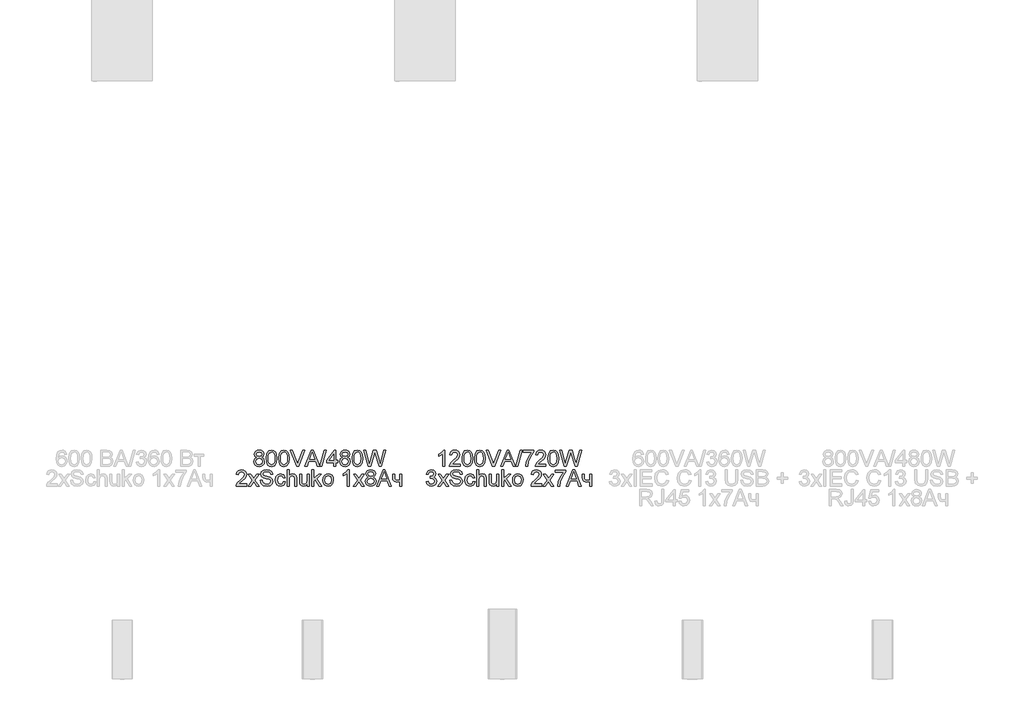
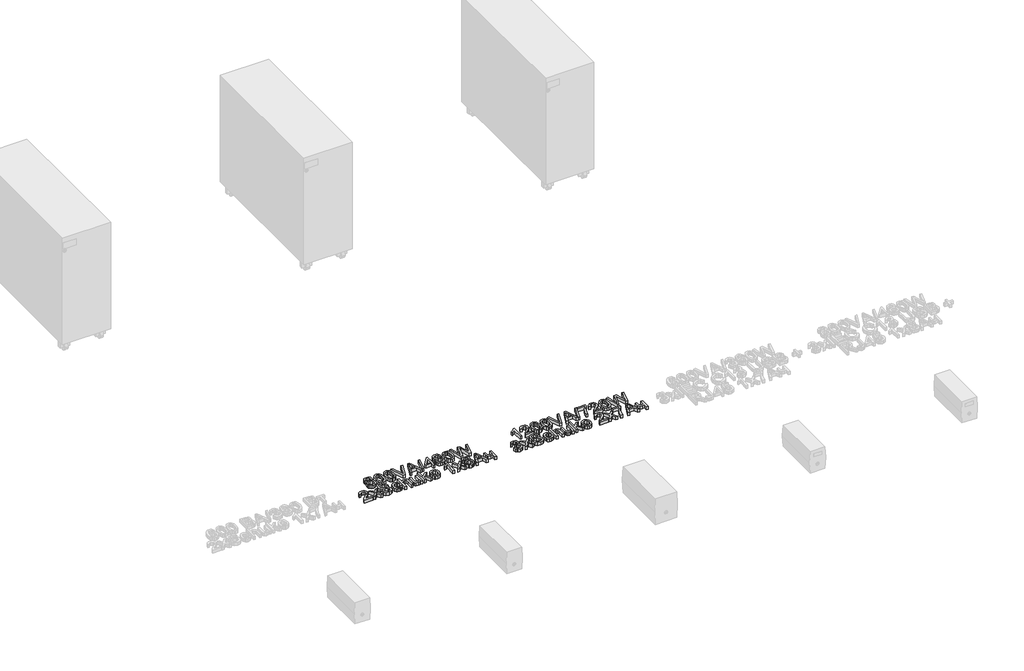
# One storey, part 38 of 74: 2 proxies.
"""IFC4 building model written with IfcOpenShell, lengths in millimetres."""

import ifcopenshell
import ifcopenshell.guid

model = None  # the IFC model being written
_history = None  # IfcOwnerHistory: only IFC2X3 demands one
_inside = {}  # id of a spatial element -> (the spatial element, [elements in it])
_under = {}  # id of a project, library or spatial element -> (it, [spatial elements below it])
_declared = {}  # id of a project -> (the project, [libraries it declares])
_typed = {}  # id of a type object -> (the type object, [elements of that type])
_made_of = {}  # id of a material, layer set ... -> (it, [elements and type objects made of it])


def new_model(schema):
    """Start an empty IFC model of exactly this schema.

    Asked for "IFC4X3", IfcOpenShell would pick the latest addendum, in which some entities
    have other attributes; the version numbers below select the first issue.
    IFC2X3 requires an IfcOwnerHistory on every rooted entity: one is made here for all.
    """
    global model, _history
    if schema == "IFC4X3":
        model = ifcopenshell.file(schema_version=(4, 3, 0, 0))
    else:
        model = ifcopenshell.file(schema=schema)
    _inside.clear()
    _under.clear()
    _declared.clear()
    _typed.clear()
    _made_of.clear()
    _history = None
    if model.schema == "IFC2X3":
        org = make("IfcOrganization", Name="unknown")
        user = make(
            "IfcPersonAndOrganization",
            ThePerson=make("IfcPerson", FamilyName="unknown"),
            TheOrganization=org,
        )
        app = make(
            "IfcApplication",
            ApplicationDeveloper=org,
            Version="unknown",
            ApplicationFullName="unknown",
            ApplicationIdentifier="unknown",
        )
        _history = make(
            "IfcOwnerHistory",
            OwningUser=user,
            OwningApplication=app,
            ChangeAction="ADDED",
            CreationDate=0,
        )
    return model


def make(cls, **values):
    """One entity of the class cls with the attributes given. An attribute that is None is left unset."""
    return model.create_entity(
        cls, **{name: value for name, value in values.items() if value is not None}
    )


def rooted(cls, **values):
    """An entity with a GlobalId (a new one), such as an element, a storey or a relation."""
    return make(cls, GlobalId=ifcopenshell.guid.new(), OwnerHistory=_history, **values)


def si_unit(unit_type, name, prefix=None):
    """IfcSIUnit, for example si_unit("LENGTHUNIT", "METRE", prefix="MILLI")."""
    return make("IfcSIUnit", UnitType=unit_type, Prefix=prefix, Name=name)


def assignment(units):
    """IfcUnitAssignment: the units of a project."""
    return None if units is None else make("IfcUnitAssignment", Units=units)


def point(xyz):
    """IfcCartesianPoint."""
    return None if xyz is None else make("IfcCartesianPoint", Coordinates=xyz)


def direction(xyz):
    """IfcDirection."""
    return None if xyz is None else make("IfcDirection", DirectionRatios=xyz)


def frame(location, z_axis=None, x_axis=None):
    """IfcAxis2Placement3D, a coordinate frame: its origin and axes. An axis left out is left unset."""
    return make(
        "IfcAxis2Placement3D",
        Location=point(location),
        Axis=direction(z_axis),
        RefDirection=direction(x_axis),
    )


def origin():
    """The frame at (0, 0, 0) with its axes left unset."""
    return frame((0.0, 0.0, 0.0))


def origin_with_axes():
    """The frame at (0, 0, 0) with the z axis (0, 0, 1) and the x axis (1, 0, 0) written out."""
    return frame((0.0, 0.0, 0.0), z_axis=(0.0, 0.0, 1.0), x_axis=(1.0, 0.0, 0.0))


def place(relative_to, where):
    """IfcLocalPlacement: puts the frame where relative to a parent placement (None: the world)."""
    return make(
        "IfcLocalPlacement", PlacementRelTo=relative_to, RelativePlacement=where
    )


def context(
    kind, dimensions, precision=None, world=None, true_north=None, identifier=None
):
    """IfcGeometricRepresentationContext, for example the 3D "Model" context."""
    return make(
        "IfcGeometricRepresentationContext",
        ContextIdentifier=identifier,
        ContextType=kind,
        CoordinateSpaceDimension=dimensions,
        Precision=precision,
        WorldCoordinateSystem=world,
        TrueNorth=true_north,
    )


def project(units=None, contexts=None):
    """IfcProject with its units and contexts."""
    return rooted(
        "IfcProject",
        Name="project",
        RepresentationContexts=contexts,
        UnitsInContext=assignment(units),
    )


def spatial(cls, under=None, at=None, **own):
    """A site, building, storey or space (cls), placed at a placement, below another one or the project."""
    s = rooted(cls, ObjectPlacement=at, **own)
    if under is not None:
        _under.setdefault(under.id(), (under, []))[1].append(s)
    return s


def polyline(points):
    """IfcPolyline through the points."""
    return make("IfcPolyline", Points=[point(p) for p in points])


def outline(outer, holes=None, kind="AREA"):
    """IfcArbitraryClosedProfileDef: a profile drawn as a closed curve; with holes, ...WithVoids."""
    if holes is None:
        return make("IfcArbitraryClosedProfileDef", ProfileType=kind, OuterCurve=outer)
    return make(
        "IfcArbitraryProfileDefWithVoids",
        ProfileType=kind,
        OuterCurve=outer,
        InnerCurves=holes,
    )


def extrude(swept, where, along, depth):
    """IfcExtrudedAreaSolid: the profile swept, set in the frame where, extruded along a direction by depth."""
    return make(
        "IfcExtrudedAreaSolid",
        SweptArea=swept,
        Position=where,
        ExtrudedDirection=direction(along),
        Depth=depth,
    )


def shape(context_of_items, identifier, shape_type, items):
    """IfcShapeRepresentation: the items that make up one representation, for example the "Body"."""
    return make(
        "IfcShapeRepresentation",
        ContextOfItems=context_of_items,
        RepresentationIdentifier=identifier,
        RepresentationType=shape_type,
        Items=items,
    )


def made_of(thing, what):
    """Note that an element or type object is made of a material, layer set ...; save() writes the relation."""
    if what is not None:
        _made_of.setdefault(what.id(), (what, []))[1].append(thing)
    return thing


def element(
    cls,
    number,
    at=None,
    inside=None,
    cuts=None,
    type_object=None,
    material=None,
    context=None,
    identifier="Body",
    shape_type=None,
    held_by="IfcProductDefinitionShape",
    body=None,
    shapes=None,
    **own,
):
    """One element of the class cls, such as IfcWall. Its Tag is "e" and its number.

    at: its placement. inside: the storey or other place that contains it. cuts: it is an
    opening in that element (IfcRelVoidsElement). A single representation is given by context,
    identifier, shape_type and body (its items); several are given by shapes. held_by: the class
    of the entity that holds the representations. save() writes the other relations.
    """
    e = rooted(cls, Tag="e%d" % number, ObjectPlacement=at, **own)
    if body is not None:
        shapes = [shape(context, identifier, shape_type, body)]
    if shapes is not None:
        e.Representation = make(held_by, Representations=shapes)
    if inside is not None:
        _inside.setdefault(inside.id(), (inside, []))[1].append(e)
    if cuts is not None:
        rooted(
            "IfcRelVoidsElement", RelatingBuildingElement=cuts, RelatedOpeningElement=e
        )
    if type_object is not None:
        _typed.setdefault(type_object.id(), (type_object, []))[1].append(e)
    return made_of(e, material)


def aggregate(whole, parts):
    """IfcRelAggregates: a whole, such as a stair, and the parts it consists of."""
    return rooted("IfcRelAggregates", RelatingObject=whole, RelatedObjects=parts)


def save(model, path):
    """Write the relations noted so far, then the file.

    IfcRelAggregates (storeys below a building ...), IfcRelContainedInSpatialStructure (elements
    in a storey), IfcRelDefinesByType, IfcRelAssociatesMaterial and IfcRelDeclares: one each for
    every whole, place, type object, material and project.
    """
    for whole, parts in _under.values():
        aggregate(whole, parts)
    for where, things in _inside.values():
        rooted(
            "IfcRelContainedInSpatialStructure",
            RelatedElements=things,
            RelatingStructure=where,
        )
    for kind, things in _typed.values():
        rooted("IfcRelDefinesByType", RelatedObjects=things, RelatingType=kind)
    for what, things in _made_of.values():
        rooted("IfcRelAssociatesMaterial", RelatedObjects=things, RelatingMaterial=what)
    for by, libraries in _declared.values():
        rooted("IfcRelDeclares", RelatingContext=by, RelatedDefinitions=libraries)
    model.write(path)


model = new_model("IFC4")

# Units and contexts
model_context = context("Model", 3, world=origin())
ifc_project = project(units=[si_unit("LENGTHUNIT", "METRE", prefix="MILLI")], contexts=[model_context])

# Site, building, storey
site = spatial("IfcSite", under=ifc_project)
building = spatial("IfcBuilding", under=site)
storey = spatial("IfcBuildingStorey", under=building, Name="Этаж 01", Elevation=0.0)

# Proxies
placement = place(None, origin())
element("IfcBuildingElementProxy", 1, Name="80 мм Arial", ObjectType="80 мм Arial", at=placement, inside=storey, context=model_context, shape_type="SweptSolid", body=[
    extrude(outline(polyline([(2019.4918629, -10982.3697643), (2010.3389588, -10976.1304857), (2007.3664723, -10966.418401), (2008.9851531, -10958.5653467), (2013.8411954, -10952.0759083), (2021.390134, -10947.7201854), (2031.0875034, -10946.2682778), (2040.8437339, -10947.7545211), (2048.4907743, -10952.2132509), (2053.4351083, -10958.8056962), (2055.0832196, -10966.6930862), (2052.1499739, -10976.1599162), (2043.2521347, -10982.3697643), (2053.9354278, -10990.2473441), (2057.5946274, -11003.2458413), (2055.7797429, -11012.8500139), (2050.3350894, -11020.7864548), (2041.9277595, -11026.1133861), (2031.224846, -11027.8890298), (2020.5219325, -11026.1060284), (2012.1146026, -11020.7570242), (2006.6699491, -11012.7445544), (2004.8550646, -11002.971156), (2008.6614169, -10989.6685431), (2019.4918629, -10982.3697643)]), holes=[polyline([(2017.4121033, -10966.7127066), (2020.973201, -10974.6000966), (2031.3425682, -10977.6608748), (2041.5059215, -10974.6197169), (2045.0375886, -10967.1639752), (2041.3881992, -10959.4433584), (2031.224846, -10956.3139089), (2021.0320622, -10959.3746871), (2017.4121033, -10966.7127066)]), polyline([(2014.9006956, -11002.6179893), (2016.5782375, -11010.1816431), (2022.5134003, -11015.8421208), (2031.3033275, -11017.8433988), (2043.271755, -11013.6348288), (2047.5489964, -11002.9319153), (2043.1344124, -10992.0229879), (2030.9697811, -10987.7065058), (2019.1485063, -10991.9641267), (2014.9006956, -11002.6179893)])]), origin_with_axes(), (0.0, 0.0, 1.0), 20.0),
    extrude(outline(polyline([(2066.3845545, -10987.0982742), (2069.3374207, -10963.9756645), (2078.1077274, -10950.643621), (2092.7543359, -10946.2682778), (2104.487319, -10948.8581671), (2112.5905331, -10956.323719), (2117.2994227, -10968.2136651), (2119.1241174, -10987.0982742), (2116.2006818, -11010.122782), (2107.4598056, -11023.4842561), (2092.7543359, -11027.8890298), (2082.3162975, -11025.9760435), (2074.3896667, -11020.2370843), (2068.3858326, -11006.6450709), (2066.3845545, -10987.0982742)]), holes=[polyline([(2076.4301855, -10987.0786538), (2077.6074079, -11002.8804118), (2081.1390751, -11012.0259582), (2092.7543359, -11017.8433988), (2104.3695968, -11012.0063378), (2107.901264, -11002.8558863), (2109.0784863, -10987.0786538), (2107.9405047, -10971.6325151), (2104.5265598, -10962.4158449), (2099.27811, -10957.8393929), (2092.6366137, -10956.3139089), (2081.2960381, -10961.6898911), (2077.6466487, -10971.4804572), (2076.4301855, -10987.0786538)])]), origin_with_axes(), (0.0, 0.0, 1.0), 20.0),
    extrude(outline(polyline([(2127.9140445, -10987.0982742), (2130.8669106, -10963.9756645), (2139.6372174, -10950.643621), (2154.2838259, -10946.2682778), (2166.016809, -10948.8581671), (2174.1200231, -10956.323719), (2178.8289126, -10968.2136651), (2180.6536073, -10987.0982742), (2177.7301717, -11010.122782), (2168.9892955, -11023.4842561), (2154.2838259, -11027.8890298), (2143.8457874, -11025.9760435), (2135.9191567, -11020.2370843), (2129.9153225, -11006.6450709), (2127.9140445, -10987.0982742)]), holes=[polyline([(2137.9596755, -10987.0786538), (2139.1368979, -11002.8804118), (2142.668565, -11012.0259582), (2154.2838259, -11017.8433988), (2165.8990868, -11012.0063378), (2169.4307539, -11002.8558863), (2170.6079763, -10987.0786538), (2169.4699947, -10971.6325151), (2166.0560498, -10962.4158449), (2160.8076, -10957.8393929), (2154.1661037, -10956.3139089), (2142.825528, -10961.6898911), (2139.1761386, -10971.4804572), (2137.9596755, -10987.0786538)])]), origin_with_axes(), (0.0, 0.0, 1.0), 20.0),
    extrude(outline(polyline([(2257.9382569, -11026.633326), (2290.0175668, -10946.2682778), (2298.5720495, -10946.2682778), (2330.6513595, -11026.633326), (2320.0367377, -11026.633326), (2310.8347827, -11001.5192484), (2277.7352133, -11001.5192484), (2268.5528787, -11026.633326), (2257.9382569, -11026.633326)]), holes=[polyline([(2281.4238434, -10991.4736174), (2307.1657729, -10991.4736174), (2299.9258553, -10971.7159017), (2294.2948082, -10956.3139089), (2289.291613, -10969.9893089), (2281.4238434, -10991.4736174)])]), origin_with_axes(), (0.0, 0.0, 1.0), 20.0),
    extrude(outline(polyline([(2216.9512975, -11026.633326), (2184.9700894, -10946.2682778), (2195.7220538, -10946.2682778), (2217.1278809, -11004.1679988), (2221.4639833, -11017.2155469), (2225.7412247, -11004.1679988), (2247.2059128, -10946.2682778), (2257.9578772, -10946.2682778), (2227.3304749, -11026.633326), (2216.9512975, -11026.633326)])), origin_with_axes(), (0.0, 0.0, 1.0), 20.0),
    extrude(outline(polyline([(2332.5937764, -11026.633326), (2355.1964462, -10946.2682778), (2364.2610586, -10946.2682778), (2341.6583888, -11026.633326), (2332.5937764, -11026.633326)])), origin_with_axes(), (0.0, 0.0, 1.0), 20.0),
    extrude(outline(polyline([(2401.6574897, -11026.633326), (2401.6574897, -11007.7977678), (2365.2420772, -11007.7977678), (2365.2420772, -10997.7521368), (2404.1688974, -10947.5239817), (2411.7031207, -10947.5239817), (2411.7031207, -10997.7521368), (2421.7487517, -10997.7521368), (2421.7487517, -11007.7977678), (2411.7031207, -11007.7977678), (2411.7031207, -11026.633326), (2401.6574897, -11026.633326)]), holes=[polyline([(2401.6574897, -10997.7521368), (2401.6574897, -10966.7127066), (2377.6029123, -10997.7521368), (2401.6574897, -10997.7521368)])]), origin_with_axes(), (0.0, 0.0, 1.0), 20.0),
    extrude(outline(polyline([(2445.1754771, -10982.3697643), (2436.0225731, -10976.1304857), (2433.0500866, -10966.418401), (2434.6687674, -10958.5653467), (2439.5248097, -10952.0759083), (2447.0737482, -10947.7201854), (2456.7711176, -10946.2682778), (2466.5273481, -10947.7545211), (2474.1743885, -10952.2132509), (2479.1187226, -10958.8056962), (2480.7668339, -10966.6930862), (2477.8335881, -10976.1599162), (2468.9357489, -10982.3697643), (2479.6190421, -10990.2473441), (2483.2782416, -11003.2458413), (2481.4633571, -11012.8500139), (2476.0187036, -11020.7864548), (2467.6113737, -11026.1133861), (2456.9084602, -11027.8890298), (2446.2055467, -11026.1060284), (2437.7982169, -11020.7570242), (2432.3535633, -11012.7445544), (2430.5386788, -11002.971156), (2434.3450312, -10989.6685431), (2445.1754771, -10982.3697643)]), holes=[polyline([(2443.0957176, -10966.7127066), (2446.6568153, -10974.6000966), (2457.0261825, -10977.6608748), (2467.1895357, -10974.6197169), (2470.7212029, -10967.1639752), (2467.0718135, -10959.4433584), (2456.9084602, -10956.3139089), (2446.7156764, -10959.3746871), (2443.0957176, -10966.7127066)]), polyline([(2440.5843098, -11002.6179893), (2442.2618517, -11010.1816431), (2448.1970146, -11015.8421208), (2456.9869417, -11017.8433988), (2468.9553693, -11013.6348288), (2473.2326106, -11002.9319153), (2468.8180267, -10992.0229879), (2456.6533954, -10987.7065058), (2444.8321206, -10991.9641267), (2440.5843098, -11002.6179893)])]), origin_with_axes(), (0.0, 0.0, 1.0), 20.0),
    extrude(outline(polyline([(2492.0681688, -10987.0982742), (2495.0210349, -10963.9756645), (2503.7913417, -10950.643621), (2518.4379502, -10946.2682778), (2530.1709333, -10948.8581671), (2538.2741474, -10956.323719), (2542.9830369, -10968.2136651), (2544.8077316, -10987.0982742), (2541.884296, -11010.122782), (2533.1434198, -11023.4842561), (2518.4379502, -11027.8890298), (2507.9999117, -11025.9760435), (2500.073281, -11020.2370843), (2494.0694468, -11006.6450709), (2492.0681688, -10987.0982742)]), holes=[polyline([(2502.1137998, -10987.0786538), (2503.2910222, -11002.8804118), (2506.8226893, -11012.0259582), (2518.4379502, -11017.8433988), (2530.0532111, -11012.0063378), (2533.5848782, -11002.8558863), (2534.7621006, -10987.0786538), (2533.624119, -10971.6325151), (2530.210174, -10962.4158449), (2524.9617242, -10957.8393929), (2518.320228, -10956.3139089), (2506.9796523, -10961.6898911), (2503.3302629, -10971.4804572), (2502.1137998, -10987.0786538)])]), origin_with_axes(), (0.0, 0.0, 1.0), 20.0),
    extrude(outline(polyline([(2571.7465038, -11026.633326), (2549.8305471, -10946.2682778), (2560.1901041, -10946.2682778), (2572.9041059, -10999.0863222), (2576.8281805, -11015.3908522), (2581.0269403, -11000.969878), (2596.9586833, -10946.2682778), (2611.8897872, -10946.2682778), (2623.4658073, -10985.9210518), (2632.0791511, -11015.3908522), (2635.8855034, -10999.5572111), (2648.7172274, -10946.2682778), (2659.0767844, -10946.2682778), (2637.1412073, -11026.633326), (2626.4088632, -11026.633326), (2607.1416569, -10964.632947), (2604.4536658, -10955.9803625), (2601.4321283, -10966.3987806), (2583.8718944, -11026.633326), (2571.7465038, -11026.633326)])), origin_with_axes(), (0.0, 0.0, 1.0), 20.0),
    extrude(outline(polyline([(1970.3232079, -11114.1675492), (1970.3232079, -11124.2131802), (1917.5836451, -11124.2131802), (1918.6627656, -11117.2871885), (1924.7647017, -11106.6235158), (1937.3413608, -11094.9788244), (1954.6857706, -11078.2426461), (1959.0218731, -11066.8628297), (1954.9310253, -11057.6510646), (1944.2477321, -11053.8937631), (1933.1131704, -11057.5627729), (1928.88498, -11067.7065058), (1918.839349, -11066.4508019), (1921.2747278, -11056.7338121), (1926.5403454, -11049.6361422), (1934.3615166, -11045.2951346), (1944.4635562, -11043.8481321), (1954.6391722, -11045.4570027), (1962.4456282, -11050.2836145), (1967.4120351, -11057.4941016), (1969.0675041, -11066.2545982), (1967.2820501, -11075.7802893), (1961.3468873, -11085.6297166), (1946.9553436, -11099.3934083), (1935.3989439, -11109.056442), (1930.8666377, -11114.1675492), (1970.3232079, -11114.1675492)])), origin_with_axes(), (0.0, 0.0, 1.0), 20.0),
    extrude(outline(polyline([(1976.6017273, -11124.2131802), (1998.0664155, -11094.5471761), (1977.8574312, -11065.195098), (1989.943581, -11065.195098), (1999.6949064, -11079.3217666), (2004.246833, -11085.9926935), (2008.190528, -11080.5382298), (2019.2956591, -11065.195098), (2031.381809, -11065.195098), (2010.1525653, -11094.5471761), (2030.596994, -11124.2131802), (2018.5108442, -11124.2131802), (2006.2088703, -11106.3782611), (2003.9525274, -11103.1212792), (1988.6878771, -11124.2131802), (1976.6017273, -11124.2131802)])), origin_with_axes(), (0.0, 0.0, 1.0), 20.0),
    extrude(outline(polyline([(2036.8755134, -11096.5876949), (2046.9211444, -11096.5876949), (2050.158506, -11106.6431361), (2058.0655163, -11113.000137), (2070.1124254, -11115.4232531), (2080.609325, -11113.5887482), (2087.3881639, -11108.5463123), (2089.6150762, -11101.8067142), (2087.9473445, -11095.538005), (2081.1194547, -11090.9762682), (2066.4924666, -11087.1404853), (2050.7471172, -11082.1863411), (2042.2024447, -11074.710979), (2039.3869212, -11064.7242091), (2042.8695374, -11053.3542029), (2053.0427008, -11045.3294703), (2067.934564, -11042.5924282), (2083.8270662, -11045.4570027), (2094.4220677, -11053.8741428), (2098.4050034, -11066.4508019), (2088.3593724, -11066.4508019), (2082.6694642, -11056.1304857), (2068.3269715, -11052.6380593), (2053.945238, -11056.0912449), (2049.4325522, -11064.4299035), (2052.630673, -11071.3951359), (2069.0333049, -11077.0065626), (2086.8093629, -11082.0489985), (2096.5312578, -11090.1914533), (2099.6607073, -11101.5516493), (2096.0603688, -11113.5691278), (2085.7008118, -11122.3394346), (2070.5048329, -11125.4688841), (2052.5620017, -11122.0941799), (2041.2116159, -11111.9308267), (2036.8755134, -11096.5876949)])), origin_with_axes(), (0.0, 0.0, 1.0), 20.0),
    extrude(outline(polyline([(2151.1445662, -11102.8662143), (2161.1901972, -11104.1219182), (2158.389389, -11113.0565456), (2153.1262239, -11119.8084065), (2137.194481, -11125.4688841), (2126.5087353, -11123.4945841), (2118.1529089, -11117.571684), (2112.7597588, -11107.9601537), (2110.9620422, -11094.9199632), (2114.0326305, -11078.2328359), (2123.3915485, -11067.510302), (2137.0571383, -11063.9393941), (2152.3315988, -11068.8444874), (2159.9344934, -11082.7749523), (2149.8888623, -11084.0306562), (2145.2290237, -11076.5062431), (2137.1356198, -11073.9850252), (2125.4909284, -11078.9489796), (2121.0076732, -11094.645278), (2125.3928266, -11110.4887293), (2136.8609346, -11115.4232531), (2146.3277646, -11112.3428545), (2151.1445662, -11102.8662143)])), origin_with_axes(), (0.0, 0.0, 1.0), 20.0),
    extrude(outline(polyline([(2169.9801244, -11124.2131802), (2169.9801244, -11043.8481321), (2180.0257554, -11043.8481321), (2180.0257554, -11073.396414), (2187.8591893, -11066.3036491), (2197.5075078, -11063.9393941), (2208.7892223, -11066.5194732), (2215.6367325, -11073.6514788), (2217.6968717, -11086.8559899), (2217.6968717, -11124.2131802), (2207.6512407, -11124.2131802), (2207.6512407, -11087.8958697), (2204.4531199, -11077.3008682), (2195.3885075, -11073.9850252), (2187.157761, -11076.2217477), (2181.6640565, -11082.284443), (2180.0257554, -11092.8598241), (2180.0257554, -11124.2131802), (2169.9801244, -11124.2131802)])), origin_with_axes(), (0.0, 0.0, 1.0), 20.0),
    extrude(outline(polyline([(2269.1807306, -11124.2131802), (2269.1807306, -11114.0694474), (2261.312961, -11122.6190249), (2251.0515059, -11125.4688841), (2241.6042963, -11123.4676061), (2235.0903324, -11118.4447906), (2232.0982255, -11111.0479099), (2231.5096143, -11101.7086123), (2231.5096143, -11065.195098), (2241.5552453, -11065.195098), (2241.5552453, -11096.9801024), (2242.1634769, -11107.2219372), (2246.1366025, -11113.2355815), (2253.6217748, -11115.4232531), (2262.0094843, -11113.1865306), (2267.5522397, -11107.0944047), (2269.1807306, -11095.9009819), (2269.1807306, -11065.195098), (2279.2263617, -11065.195098), (2279.2263617, -11124.2131802), (2269.1807306, -11124.2131802)])), origin_with_axes(), (0.0, 0.0, 1.0), 20.0),
    extrude(outline(polyline([(2293.0391043, -11124.2131802), (2293.0391043, -11043.8481321), (2303.0847353, -11043.8481321), (2303.0847353, -11087.0325733), (2325.6089236, -11065.195098), (2339.5001477, -11065.195098), (2316.7012742, -11087.3072585), (2340.7558516, -11124.2131802), (2329.0228685, -11124.2131802), (2309.5005973, -11094.2921113), (2303.0847353, -11100.5117696), (2303.0847353, -11124.2131802), (2293.0391043, -11124.2131802)])), origin_with_axes(), (0.0, 0.0, 1.0), 20.0),
    extrude(outline(polyline([(2347.034371, -11094.7041391), (2349.2073273, -11080.4744636), (2355.7261963, -11070.4729784), (2363.7803594, -11065.5727902), (2373.4237728, -11063.9393941), (2383.977081, -11065.9284095), (2392.4064837, -11071.8954554), (2397.9320713, -11081.3696431), (2399.7739338, -11093.8800835), (2396.5169519, -11111.7542433), (2387.0305015, -11121.8685457), (2373.4237728, -11125.4688841), (2362.7429322, -11123.4872264), (2354.3233396, -11117.5422534), (2348.8566132, -11107.8694095), (2347.034371, -11094.7041391)]), holes=[polyline([(2357.080002, -11094.6845188), (2361.7300304, -11110.2532848), (2373.4237728, -11115.4232531), (2385.0782744, -11110.2238542), (2389.7283028, -11094.3705928), (2385.0488438, -11079.1549935), (2373.4237728, -11073.9850252), (2361.7300304, -11079.1353731), (2357.080002, -11094.6845188)])]), origin_with_axes(), (0.0, 0.0, 1.0), 20.0),
    extrude(outline(polyline([(2477.6275742, -11124.2131802), (2467.5819432, -11124.2131802), (2467.5819432, -11061.5849494), (2458.0660622, -11068.3637883), (2447.4906812, -11073.4356547), (2447.4906812, -11063.9393941), (2462.2157711, -11054.5412354), (2471.1528511, -11043.8481321), (2477.6275742, -11043.8481321), (2477.6275742, -11124.2131802)])), origin_with_axes(), (0.0, 0.0, 1.0), 20.0),
    extrude(outline(polyline([(2497.7188362, -11124.2131802), (2519.1835244, -11094.5471761), (2498.9745401, -11065.195098), (2511.0606899, -11065.195098), (2520.8120153, -11079.3217666), (2525.3639419, -11085.9926935), (2529.3076369, -11080.5382298), (2540.412768, -11065.195098), (2552.4989179, -11065.195098), (2531.2696742, -11094.5471761), (2551.7141029, -11124.2131802), (2539.6279531, -11124.2131802), (2527.3259792, -11106.3782611), (2525.0696363, -11103.1212792), (2509.804986, -11124.2131802), (2497.7188362, -11124.2131802)])), origin_with_axes(), (0.0, 0.0, 1.0), 20.0),
    extrude(outline(polyline([(2572.6294206, -11079.9496186), (2563.4765166, -11073.7103399), (2560.5040301, -11063.9982553), (2562.1227109, -11056.1452009), (2566.9787532, -11049.6557625), (2574.5276917, -11045.3000397), (2584.2250611, -11043.8481321), (2593.9812916, -11045.3343754), (2601.628332, -11049.7931052), (2606.5726661, -11056.3855505), (2608.2207774, -11064.2729405), (2605.2875316, -11073.7397705), (2596.3896924, -11079.9496186), (2607.0729856, -11087.8271984), (2610.7321851, -11100.8256955), (2608.9173006, -11110.4298682), (2603.4726471, -11118.3663091), (2595.0653172, -11123.6932404), (2584.3624037, -11125.4688841), (2573.6594902, -11123.6858827), (2565.2521604, -11118.3368785), (2559.8075068, -11110.3244086), (2557.9926223, -11100.5510103), (2561.7989747, -11087.2483974), (2572.6294206, -11079.9496186)]), holes=[polyline([(2570.5496611, -11064.2925609), (2574.1107588, -11072.1799508), (2584.480126, -11075.240729), (2594.6434792, -11072.1995712), (2598.1751464, -11064.7438294), (2594.525757, -11057.0232126), (2584.3624037, -11053.8937631), (2574.1696199, -11056.9545413), (2570.5496611, -11064.2925609)]), polyline([(2568.0382533, -11100.1978436), (2569.7157952, -11107.7614974), (2575.6509581, -11113.421975), (2584.4408852, -11115.4232531), (2596.4093128, -11111.2146831), (2600.6865541, -11100.5117696), (2596.2719702, -11089.6028421), (2584.1073389, -11085.2863601), (2572.2860641, -11089.543981), (2568.0382533, -11100.1978436)])]), origin_with_axes(), (0.0, 0.0, 1.0), 20.0),
    extrude(outline(polyline([(2613.930306, -11124.2131802), (2646.0096159, -11043.8481321), (2654.5640986, -11043.8481321), (2686.6434086, -11124.2131802), (2676.0287867, -11124.2131802), (2666.8268318, -11099.0991027), (2633.7272624, -11099.0991027), (2624.5449278, -11124.2131802), (2613.930306, -11124.2131802)]), holes=[polyline([(2637.4158925, -11089.0534717), (2663.157822, -11089.0534717), (2655.9179043, -11069.295756), (2650.2868573, -11053.8937631), (2645.2836621, -11067.5691632), (2637.4158925, -11089.0534717)])]), origin_with_axes(), (0.0, 0.0, 1.0), 20.0),
    extrude(outline(polyline([(2692.3529371, -11065.195098), (2702.3985682, -11065.195098), (2702.3985682, -11076.5160533), (2703.2128136, -11087.1306751), (2707.1270781, -11092.8794444), (2714.8967458, -11095.3319911), (2728.7683496, -11092.2908332), (2728.7683496, -11065.195098), (2738.8139806, -11065.195098), (2738.8139806, -11124.2131802), (2728.7683496, -11124.2131802), (2728.7683496, -11101.9244364), (2712.2087547, -11105.3776221), (2700.8191281, -11101.7772836), (2694.1187707, -11092.9579259), (2692.3529371, -11081.4800077), (2692.3529371, -11065.195098)])), origin_with_axes(), (0.0, 0.0, 1.0), 20.0),
])
element("IfcBuildingElementProxy", 2, Name="80 мм Arial", ObjectType="80 мм Arial", at=placement, inside=storey, context=model_context, shape_type="SweptSolid", body=[
    extrude(outline(polyline([(2951.7614359, -11026.633326), (2941.7158049, -11026.633326), (2941.7158049, -10964.0050951), (2932.1999239, -10970.783934), (2921.6245428, -10975.8558004), (2921.6245428, -10966.3595399), (2936.3496328, -10956.9613812), (2945.2867128, -10946.2682778), (2951.7614359, -10946.2682778), (2951.7614359, -11026.633326)])), origin_with_axes(), (0.0, 0.0, 1.0), 20.0),
    extrude(outline(polyline([(3027.1036685, -11016.5876949), (3027.1036685, -11026.633326), (2974.3641057, -11026.633326), (2975.4432262, -11019.7073343), (2981.5451622, -11009.0436615), (2994.1218214, -10997.3989701), (3011.4662312, -10980.6627918), (3015.8023336, -10969.2829755), (3011.7114858, -10960.0712103), (3001.0281927, -10956.3139089), (2989.893631, -10959.9829186), (2985.6654406, -10970.1266515), (2975.6198095, -10968.8709476), (2978.0551884, -10959.1539579), (2983.320806, -10952.0562879), (2991.1419772, -10947.7152804), (3001.2440168, -10946.2682778), (3011.4196328, -10947.8771484), (3019.2260887, -10952.7037602), (3024.1924956, -10959.9142473), (3025.8479646, -10968.6747439), (3024.0625107, -10978.200435), (3018.1273478, -10988.0498623), (3003.7358042, -11001.813554), (2992.1794044, -11011.4765878), (2987.6470982, -11016.5876949), (3027.1036685, -11016.5876949)])), origin_with_axes(), (0.0, 0.0, 1.0), 20.0),
    extrude(outline(polyline([(3037.1492995, -10987.0982742), (3040.1021657, -10963.9756645), (3048.8724724, -10950.643621), (3063.5190809, -10946.2682778), (3075.252064, -10948.8581671), (3083.3552781, -10956.323719), (3088.0641676, -10968.2136651), (3089.8888623, -10987.0982742), (3086.9654267, -11010.122782), (3078.2245505, -11023.4842561), (3063.5190809, -11027.8890298), (3053.0810424, -11025.9760435), (3045.1544117, -11020.2370843), (3039.1505776, -11006.6450709), (3037.1492995, -10987.0982742)]), holes=[polyline([(3047.1949305, -10987.0786538), (3048.3721529, -11002.8804118), (3051.9038201, -11012.0259582), (3063.5190809, -11017.8433988), (3075.1343418, -11012.0063378), (3078.6660089, -11002.8558863), (3079.8432313, -10987.0786538), (3078.7052497, -10971.6325151), (3075.2913048, -10962.4158449), (3070.042855, -10957.8393929), (3063.4013587, -10956.3139089), (3052.060783, -10961.6898911), (3048.4113937, -10971.4804572), (3047.1949305, -10987.0786538)])]), origin_with_axes(), (0.0, 0.0, 1.0), 20.0),
    extrude(outline(polyline([(3098.6787895, -10987.0982742), (3101.6316556, -10963.9756645), (3110.4019624, -10950.643621), (3125.0485709, -10946.2682778), (3136.781554, -10948.8581671), (3144.8847681, -10956.323719), (3149.5936576, -10968.2136651), (3151.4183523, -10987.0982742), (3148.4949167, -11010.122782), (3139.7540405, -11023.4842561), (3125.0485709, -11027.8890298), (3114.6105324, -11025.9760435), (3106.6839017, -11020.2370843), (3100.6800675, -11006.6450709), (3098.6787895, -10987.0982742)]), holes=[polyline([(3108.7244205, -10987.0786538), (3109.9016429, -11002.8804118), (3113.43331, -11012.0259582), (3125.0485709, -11017.8433988), (3136.6638318, -11012.0063378), (3140.1954989, -11002.8558863), (3141.3727213, -10987.0786538), (3140.2347397, -10971.6325151), (3136.8207947, -10962.4158449), (3131.5723449, -10957.8393929), (3124.9308487, -10956.3139089), (3113.590273, -10961.6898911), (3109.9408836, -10971.4804572), (3108.7244205, -10987.0786538)])]), origin_with_axes(), (0.0, 0.0, 1.0), 20.0),
    extrude(outline(polyline([(3187.7160425, -11026.633326), (3155.7348344, -10946.2682778), (3166.4867988, -10946.2682778), (3187.8926259, -11004.1679988), (3192.2287283, -11017.2155469), (3196.5059696, -11004.1679988), (3217.9706578, -10946.2682778), (3228.7226222, -10946.2682778), (3198.0952199, -11026.633326), (3187.7160425, -11026.633326)])), origin_with_axes(), (0.0, 0.0, 1.0), 20.0),
    extrude(outline(polyline([(3228.7030019, -11026.633326), (3260.7823118, -10946.2682778), (3269.3367945, -10946.2682778), (3301.4161045, -11026.633326), (3290.8014826, -11026.633326), (3281.5995277, -11001.5192484), (3248.4999583, -11001.5192484), (3239.3176237, -11026.633326), (3228.7030019, -11026.633326)]), holes=[polyline([(3252.1885884, -10991.4736174), (3277.9305179, -10991.4736174), (3270.6906002, -10971.7159017), (3265.0595532, -10956.3139089), (3260.056358, -10969.9893089), (3252.1885884, -10991.4736174)])]), origin_with_axes(), (0.0, 0.0, 1.0), 20.0),
    extrude(outline(polyline([(3303.3585214, -11026.633326), (3325.9611912, -10946.2682778), (3335.0258036, -10946.2682778), (3312.4231338, -11026.633326), (3303.3585214, -11026.633326)])), origin_with_axes(), (0.0, 0.0, 1.0), 20.0),
    extrude(outline(polyline([(3339.7739338, -10957.5696127), (3339.7739338, -10947.5239817), (3392.5134967, -10947.5239817), (3392.5134967, -10955.6468162), (3377.5529622, -10977.2586571), (3366.1044745, -11004.7958507), (3362.3766036, -11026.633326), (3352.3309726, -11026.633326), (3356.3237185, -11003.9717951), (3367.2816969, -10978.357398), (3382.4678656, -10957.5696127), (3339.7739338, -10957.5696127)])), origin_with_axes(), (0.0, 0.0, 1.0), 20.0),
    extrude(outline(polyline([(3452.7872828, -11016.5876949), (3452.7872828, -11026.633326), (3400.0477199, -11026.633326), (3401.1268404, -11019.7073343), (3407.2287765, -11009.0436615), (3419.8054356, -10997.3989701), (3437.1498454, -10980.6627918), (3441.4859479, -10969.2829755), (3437.3951001, -10960.0712103), (3426.7118069, -10956.3139089), (3415.5772452, -10959.9829186), (3411.3490548, -10970.1266515), (3401.3034238, -10968.8709476), (3403.7388026, -10959.1539579), (3409.0044202, -10952.0562879), (3416.8255915, -10947.7152804), (3426.927631, -10946.2682778), (3437.103247, -10947.8771484), (3444.909703, -10952.7037602), (3449.8761099, -10959.9142473), (3451.5315789, -10968.6747439), (3449.7461249, -10978.200435), (3443.8109621, -10988.0498623), (3429.4194184, -11001.813554), (3417.8630187, -11011.4765878), (3413.3307125, -11016.5876949), (3452.7872828, -11016.5876949)])), origin_with_axes(), (0.0, 0.0, 1.0), 20.0),
    extrude(outline(polyline([(3462.8329138, -10987.0982742), (3465.7857799, -10963.9756645), (3474.5560867, -10950.643621), (3489.2026952, -10946.2682778), (3500.9356783, -10948.8581671), (3509.0388924, -10956.323719), (3513.7477819, -10968.2136651), (3515.5724766, -10987.0982742), (3512.649041, -11010.122782), (3503.9081648, -11023.4842561), (3489.2026952, -11027.8890298), (3478.7646567, -11025.9760435), (3470.838026, -11020.2370843), (3464.8341918, -11006.6450709), (3462.8329138, -10987.0982742)]), holes=[polyline([(3472.8785448, -10987.0786538), (3474.0557672, -11002.8804118), (3477.5874343, -11012.0259582), (3489.2026952, -11017.8433988), (3500.817956, -11012.0063378), (3504.3496232, -11002.8558863), (3505.5268456, -10987.0786538), (3504.3888639, -10971.6325151), (3500.974919, -10962.4158449), (3495.7264692, -10957.8393929), (3489.0849729, -10956.3139089), (3477.7443973, -10961.6898911), (3474.0950079, -10971.4804572), (3472.8785448, -10987.0786538)])]), origin_with_axes(), (0.0, 0.0, 1.0), 20.0),
    extrude(outline(polyline([(3542.5112488, -11026.633326), (3520.5952921, -10946.2682778), (3530.9548491, -10946.2682778), (3543.6688508, -10999.0863222), (3547.5929255, -11015.3908522), (3551.7916853, -11000.969878), (3567.7234282, -10946.2682778), (3582.6545321, -10946.2682778), (3594.2305523, -10985.9210518), (3602.843896, -11015.3908522), (3606.6502484, -10999.5572111), (3619.4819724, -10946.2682778), (3629.8415294, -10946.2682778), (3607.9059523, -11026.633326), (3597.1736082, -11026.633326), (3577.9064019, -10964.632947), (3575.2184107, -10955.9803625), (3572.1968733, -10966.3987806), (3554.6366394, -11026.633326), (3542.5112488, -11026.633326)])), origin_with_axes(), (0.0, 0.0, 1.0), 20.0),
    extrude(outline(polyline([(2858.839349, -11102.8662143), (2868.88498, -11101.6105105), (2874.4277354, -11112.1858915), (2884.7971026, -11115.4232531), (2897.0009746, -11110.9694284), (2901.5332808, -11099.9427787), (2897.0402154, -11089.5537912), (2885.6211582, -11085.443323), (2878.5774443, -11086.5420639), (2879.6958056, -11076.4964329), (2881.3046762, -11076.6141552), (2892.7041129, -11073.7299603), (2897.7661692, -11064.8615517), (2894.0971594, -11057.0035923), (2884.6401396, -11053.8937631), (2875.0653975, -11057.0330228), (2870.1406839, -11066.4508019), (2860.0950529, -11065.195098), (2868.3159892, -11049.4399384), (2884.2869729, -11043.8481321), (2896.4025532, -11046.6047945), (2904.8785544, -11054.1390178), (2907.8118002, -11064.2729405), (2905.0257072, -11073.5337566), (2896.7851505, -11080.1850631), (2907.7333187, -11087.0521936), (2911.5789118, -11100.1193621), (2909.6561153, -11109.9099283), (2903.8877256, -11118.0916238), (2895.181185, -11123.624569), (2884.4439359, -11125.4688841), (2874.7318512, -11123.8943492), (2866.8248408, -11119.1707444), (2861.3262313, -11111.945542), (2858.839349, -11102.8662143)])), origin_with_axes(), (0.0, 0.0, 1.0), 20.0),
    extrude(outline(polyline([(2916.6017273, -11124.2131802), (2938.0664155, -11094.5471761), (2917.8574312, -11065.195098), (2929.943581, -11065.195098), (2939.6949064, -11079.3217666), (2944.246833, -11085.9926935), (2948.190528, -11080.5382298), (2959.2956591, -11065.195098), (2971.381809, -11065.195098), (2950.1525653, -11094.5471761), (2970.596994, -11124.2131802), (2958.5108442, -11124.2131802), (2946.2088703, -11106.3782611), (2943.9525274, -11103.1212792), (2928.6878771, -11124.2131802), (2916.6017273, -11124.2131802)])), origin_with_axes(), (0.0, 0.0, 1.0), 20.0),
    extrude(outline(polyline([(2976.8755134, -11096.5876949), (2986.9211444, -11096.5876949), (2990.158506, -11106.6431361), (2998.0655163, -11113.000137), (3010.1124254, -11115.4232531), (3020.609325, -11113.5887482), (3027.3881639, -11108.5463123), (3029.6150762, -11101.8067142), (3027.9473445, -11095.538005), (3021.1194547, -11090.9762682), (3006.4924666, -11087.1404853), (2990.7471172, -11082.1863411), (2982.2024447, -11074.710979), (2979.3869212, -11064.7242091), (2982.8695374, -11053.3542029), (2993.0427008, -11045.3294703), (3007.934564, -11042.5924282), (3023.8270662, -11045.4570027), (3034.4220677, -11053.8741428), (3038.4050034, -11066.4508019), (3028.3593724, -11066.4508019), (3022.6694642, -11056.1304857), (3008.3269715, -11052.6380593), (2993.945238, -11056.0912449), (2989.4325522, -11064.4299035), (2992.630673, -11071.3951359), (3009.0333049, -11077.0065626), (3026.8093629, -11082.0489985), (3036.5312578, -11090.1914533), (3039.6607073, -11101.5516493), (3036.0603688, -11113.5691278), (3025.7008118, -11122.3394346), (3010.5048329, -11125.4688841), (2992.5620017, -11122.0941799), (2981.2116159, -11111.9308267), (2976.8755134, -11096.5876949)])), origin_with_axes(), (0.0, 0.0, 1.0), 20.0),
    extrude(outline(polyline([(3091.1445662, -11102.8662143), (3101.1901972, -11104.1219182), (3098.389389, -11113.0565456), (3093.1262239, -11119.8084065), (3077.194481, -11125.4688841), (3066.5087353, -11123.4945841), (3058.1529089, -11117.571684), (3052.7597588, -11107.9601537), (3050.9620422, -11094.9199632), (3054.0326305, -11078.2328359), (3063.3915485, -11067.510302), (3077.0571383, -11063.9393941), (3092.3315988, -11068.8444874), (3099.9344934, -11082.7749523), (3089.8888623, -11084.0306562), (3085.2290237, -11076.5062431), (3077.1356198, -11073.9850252), (3065.4909284, -11078.9489796), (3061.0076732, -11094.645278), (3065.3928266, -11110.4887293), (3076.8609346, -11115.4232531), (3086.3277646, -11112.3428545), (3091.1445662, -11102.8662143)])), origin_with_axes(), (0.0, 0.0, 1.0), 20.0),
    extrude(outline(polyline([(3109.9801244, -11124.2131802), (3109.9801244, -11043.8481321), (3120.0257554, -11043.8481321), (3120.0257554, -11073.396414), (3127.8591893, -11066.3036491), (3137.5075078, -11063.9393941), (3148.7892223, -11066.5194732), (3155.6367325, -11073.6514788), (3157.6968717, -11086.8559899), (3157.6968717, -11124.2131802), (3147.6512407, -11124.2131802), (3147.6512407, -11087.8958697), (3144.4531199, -11077.3008682), (3135.3885075, -11073.9850252), (3127.157761, -11076.2217477), (3121.6640565, -11082.284443), (3120.0257554, -11092.8598241), (3120.0257554, -11124.2131802), (3109.9801244, -11124.2131802)])), origin_with_axes(), (0.0, 0.0, 1.0), 20.0),
    extrude(outline(polyline([(3209.1807306, -11124.2131802), (3209.1807306, -11114.0694474), (3201.312961, -11122.6190249), (3191.0515059, -11125.4688841), (3181.6042963, -11123.4676061), (3175.0903324, -11118.4447906), (3172.0982255, -11111.0479099), (3171.5096143, -11101.7086123), (3171.5096143, -11065.195098), (3181.5552453, -11065.195098), (3181.5552453, -11096.9801024), (3182.1634769, -11107.2219372), (3186.1366025, -11113.2355815), (3193.6217748, -11115.4232531), (3202.0094843, -11113.1865306), (3207.5522397, -11107.0944047), (3209.1807306, -11095.9009819), (3209.1807306, -11065.195098), (3219.2263617, -11065.195098), (3219.2263617, -11124.2131802), (3209.1807306, -11124.2131802)])), origin_with_axes(), (0.0, 0.0, 1.0), 20.0),
    extrude(outline(polyline([(3233.0391043, -11124.2131802), (3233.0391043, -11043.8481321), (3243.0847353, -11043.8481321), (3243.0847353, -11087.0325733), (3265.6089236, -11065.195098), (3279.5001477, -11065.195098), (3256.7012742, -11087.3072585), (3280.7558516, -11124.2131802), (3269.0228685, -11124.2131802), (3249.5005973, -11094.2921113), (3243.0847353, -11100.5117696), (3243.0847353, -11124.2131802), (3233.0391043, -11124.2131802)])), origin_with_axes(), (0.0, 0.0, 1.0), 20.0),
    extrude(outline(polyline([(3287.034371, -11094.7041391), (3289.2073273, -11080.4744636), (3295.7261963, -11070.4729784), (3303.7803594, -11065.5727902), (3313.4237728, -11063.9393941), (3323.977081, -11065.9284095), (3332.4064837, -11071.8954554), (3337.9320713, -11081.3696431), (3339.7739338, -11093.8800835), (3336.5169519, -11111.7542433), (3327.0305015, -11121.8685457), (3313.4237728, -11125.4688841), (3302.7429322, -11123.4872264), (3294.3233396, -11117.5422534), (3288.8566132, -11107.8694095), (3287.034371, -11094.7041391)]), holes=[polyline([(3297.080002, -11094.6845188), (3301.7300304, -11110.2532848), (3313.4237728, -11115.4232531), (3325.0782744, -11110.2238542), (3329.7283028, -11094.3705928), (3325.0488438, -11079.1549935), (3313.4237728, -11073.9850252), (3301.7300304, -11079.1353731), (3297.080002, -11094.6845188)])]), origin_with_axes(), (0.0, 0.0, 1.0), 20.0),
    extrude(outline(polyline([(3431.4403168, -11114.1675492), (3431.4403168, -11124.2131802), (3378.700754, -11124.2131802), (3379.7798745, -11117.2871885), (3385.8818106, -11106.6235158), (3398.4584697, -11094.9788244), (3415.8028795, -11078.2426461), (3420.138982, -11066.8628297), (3416.0481342, -11057.6510646), (3405.364841, -11053.8937631), (3394.2302793, -11057.5627729), (3390.0020889, -11067.7065058), (3379.9564579, -11066.4508019), (3382.3918367, -11056.7338121), (3387.6574543, -11049.6361422), (3395.4786255, -11045.2951346), (3405.5806651, -11043.8481321), (3415.7562811, -11045.4570027), (3423.5627371, -11050.2836145), (3428.529144, -11057.4941016), (3430.184613, -11066.2545982), (3428.399159, -11075.7802893), (3422.4639962, -11085.6297166), (3408.0724525, -11099.3934083), (3396.5160528, -11109.056442), (3391.9837466, -11114.1675492), (3431.4403168, -11114.1675492)])), origin_with_axes(), (0.0, 0.0, 1.0), 20.0),
    extrude(outline(polyline([(3437.7188362, -11124.2131802), (3459.1835244, -11094.5471761), (3438.9745401, -11065.195098), (3451.0606899, -11065.195098), (3460.8120153, -11079.3217666), (3465.3639419, -11085.9926935), (3469.3076369, -11080.5382298), (3480.412768, -11065.195098), (3492.4989179, -11065.195098), (3471.2696742, -11094.5471761), (3491.7141029, -11124.2131802), (3479.6279531, -11124.2131802), (3467.3259792, -11106.3782611), (3465.0696363, -11103.1212792), (3449.804986, -11124.2131802), (3437.7188362, -11124.2131802)])), origin_with_axes(), (0.0, 0.0, 1.0), 20.0),
    extrude(outline(polyline([(3497.9926223, -11055.149467), (3497.9926223, -11045.103836), (3550.7321851, -11045.103836), (3550.7321851, -11053.2266704), (3535.7716507, -11074.8385114), (3524.323163, -11102.375705), (3520.5952921, -11124.2131802), (3510.5496611, -11124.2131802), (3514.542407, -11101.5516493), (3525.5003854, -11075.9372523), (3540.6865541, -11055.149467), (3497.9926223, -11055.149467)])), origin_with_axes(), (0.0, 0.0, 1.0), 20.0),
    extrude(outline(polyline([(3553.930306, -11124.2131802), (3586.0096159, -11043.8481321), (3594.5640986, -11043.8481321), (3626.6434086, -11124.2131802), (3616.0287867, -11124.2131802), (3606.8268318, -11099.0991027), (3573.7272624, -11099.0991027), (3564.5449278, -11124.2131802), (3553.930306, -11124.2131802)]), holes=[polyline([(3577.4158925, -11089.0534717), (3603.157822, -11089.0534717), (3595.9179043, -11069.295756), (3590.2868573, -11053.8937631), (3585.2836621, -11067.5691632), (3577.4158925, -11089.0534717)])]), origin_with_axes(), (0.0, 0.0, 1.0), 20.0),
    extrude(outline(polyline([(3632.3529371, -11065.195098), (3642.3985682, -11065.195098), (3642.3985682, -11076.5160533), (3643.2128136, -11087.1306751), (3647.1270781, -11092.8794444), (3654.8967458, -11095.3319911), (3668.7683496, -11092.2908332), (3668.7683496, -11065.195098), (3678.8139806, -11065.195098), (3678.8139806, -11124.2131802), (3668.7683496, -11124.2131802), (3668.7683496, -11101.9244364), (3652.2087547, -11105.3776221), (3640.8191281, -11101.7772836), (3634.1187707, -11092.9579259), (3632.3529371, -11081.4800077), (3632.3529371, -11065.195098)])), origin_with_axes(), (0.0, 0.0, 1.0), 20.0),
])

save(model, "model.ifc")
